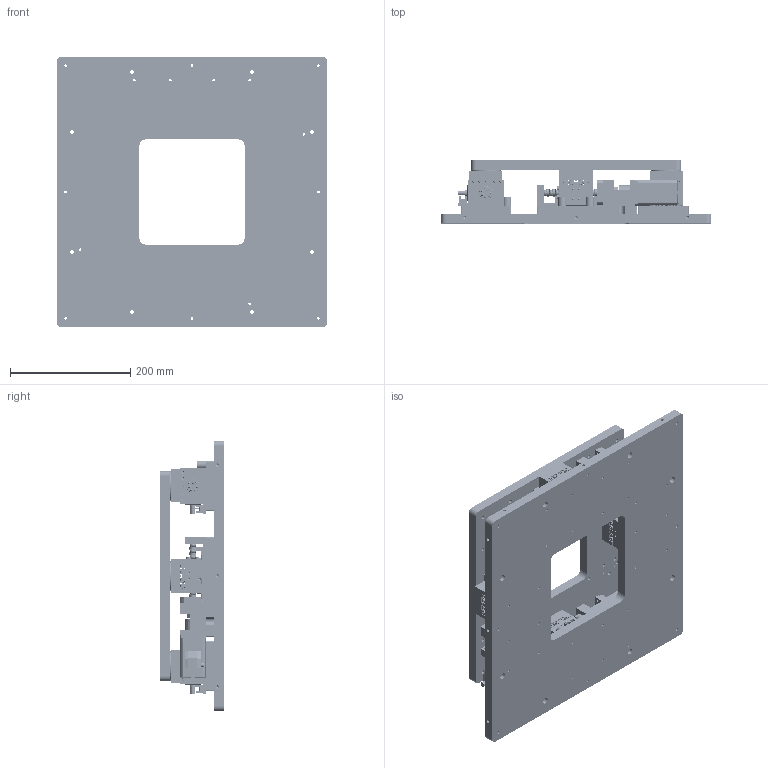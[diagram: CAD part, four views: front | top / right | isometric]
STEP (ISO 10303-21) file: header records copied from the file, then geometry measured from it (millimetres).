
FILE_DESCRIPTION (( 'STEP AP214' ), '1' );
FILE_NAME ('XXY350B-PM42.STEP', '2025-01-03T07:45:45', ( '' ), ( '' ), 'SwSTEP 2.0', 'SolidWorks 2020', '' );
FILE_SCHEMA (( 'AUTOMOTIVE_DESIGN' ));
Length unit declared in the file: millimetre
Products named in the file (1): XXY350B-PM42
Bounding box: 450 x 105 x 450 mm (x, y, z)
Surface area: 1068522.6 mm2 (no closed solid volume)
Topology: 0 solids, 87 shells, 8424 faces, 21722 edges, 13312 vertices
Faces by surface type: plane 3253, cylinder 3029, cone 1366, bspline 776
Entity records: 271213 total; most frequent: CARTESIAN_POINT 66747, DIRECTION 44035, ORIENTED_EDGE 41233, EDGE_CURVE 20870, AXIS2_PLACEMENT_3D 16283, VERTEX_POINT 13312, VECTOR 11469, LINE 11469
